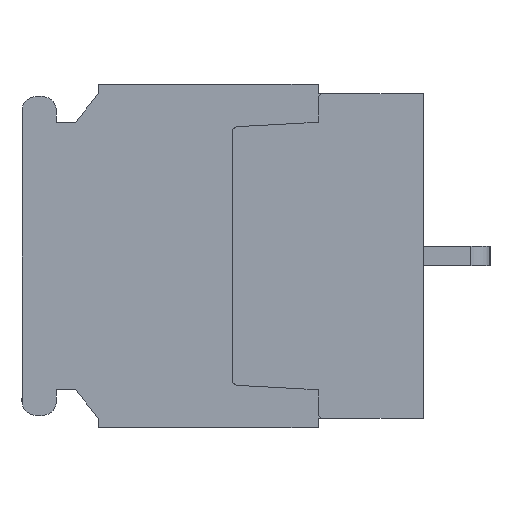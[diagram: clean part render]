
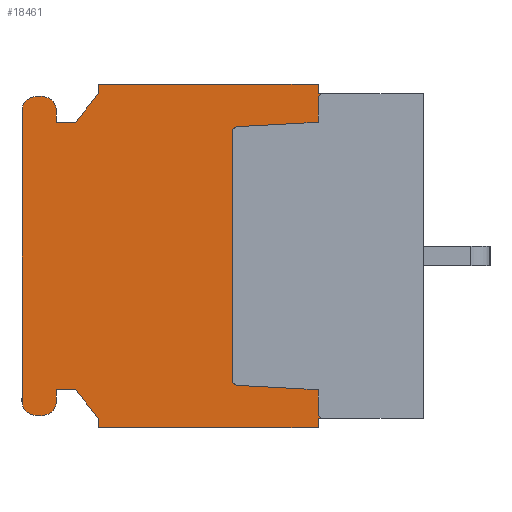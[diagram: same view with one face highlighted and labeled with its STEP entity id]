
A CAD part, left-side view. The second image highlights one B-rep face of the part: STEP entity #18461.
In plain terms, the highlighted planar face has unit normal (-1, 0, 0).
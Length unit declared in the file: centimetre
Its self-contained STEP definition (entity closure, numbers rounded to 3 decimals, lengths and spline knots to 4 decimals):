
#2247=VECTOR('',#22776,1.);
#2250=VECTOR('',#22781,1.);
#2254=VECTOR('',#22790,1.);
#2256=VECTOR('',#22793,1.);
#2259=VECTOR('',#22801,1.);
#2262=VECTOR('',#22809,1.);
#2264=VECTOR('',#22812,1.);
#2281=VECTOR('',#22839,1.);
#2283=VECTOR('',#22842,1.);
#2285=VECTOR('',#22845,1.);
#2286=VECTOR('',#22847,1.);
#2288=VECTOR('',#22850,1.);
#2290=VECTOR('',#22853,1.);
#2292=VECTOR('',#22856,1.);
#2294=VECTOR('',#22859,1.);
#2296=VECTOR('',#22862,1.);
#2299=VECTOR('',#22870,1.);
#2302=VECTOR('',#22878,1.);
#2305=VECTOR('',#22886,1.);
#2308=VECTOR('',#22894,1.);
#2310=VECTOR('',#22897,1.);
#2312=VECTOR('',#22900,1.);
#4189=LINE('',#28588,#2247);
#4192=LINE('',#28594,#2250);
#4196=LINE('',#28604,#2254);
#4198=LINE('',#28608,#2256);
#4201=LINE('',#28616,#2259);
#4204=LINE('',#28624,#2262);
#4206=LINE('',#28628,#2264);
#4223=LINE('',#28670,#2281);
#4225=LINE('',#28674,#2283);
#4227=LINE('',#28678,#2285);
#4228=LINE('',#28680,#2286);
#4230=LINE('',#28684,#2288);
#4232=LINE('',#28688,#2290);
#4234=LINE('',#28692,#2292);
#4236=LINE('',#28696,#2294);
#4238=LINE('',#28700,#2296);
#4241=LINE('',#28708,#2299);
#4244=LINE('',#28716,#2302);
#4247=LINE('',#28724,#2305);
#4250=LINE('',#28732,#2308);
#4252=LINE('',#28736,#2310);
#4254=LINE('',#28740,#2312);
#6088=VERTEX_POINT('',#28578);
#6089=VERTEX_POINT('',#28579);
#6091=VERTEX_POINT('',#28587);
#6092=VERTEX_POINT('',#28593);
#6093=VERTEX_POINT('',#28595);
#6095=VERTEX_POINT('',#28601);
#6096=VERTEX_POINT('',#28605);
#6097=VERTEX_POINT('',#28609);
#6098=VERTEX_POINT('',#28613);
#6099=VERTEX_POINT('',#28617);
#6100=VERTEX_POINT('',#28621);
#6101=VERTEX_POINT('',#28625);
#6120=VERTEX_POINT('',#28669);
#6121=VERTEX_POINT('',#28671);
#6122=VERTEX_POINT('',#28675);
#6123=VERTEX_POINT('',#28681);
#6124=VERTEX_POINT('',#28685);
#6125=VERTEX_POINT('',#28689);
#6126=VERTEX_POINT('',#28693);
#6127=VERTEX_POINT('',#28697);
#6128=VERTEX_POINT('',#28701);
#6129=VERTEX_POINT('',#28705);
#6130=VERTEX_POINT('',#28709);
#6131=VERTEX_POINT('',#28713);
#6132=VERTEX_POINT('',#28717);
#6133=VERTEX_POINT('',#28721);
#6134=VERTEX_POINT('',#28725);
#6135=VERTEX_POINT('',#28729);
#6136=VERTEX_POINT('',#28733);
#6137=VERTEX_POINT('',#28737);
#6878=CIRCLE('',#31478,0.03);
#6879=CIRCLE('',#31483,0.03);
#6880=CIRCLE('',#31487,0.03);
#6881=CIRCLE('',#31490,0.03);
#6886=CIRCLE('',#31508,0.075);
#6887=CIRCLE('',#31511,0.075);
#6888=CIRCLE('',#31514,0.075);
#6889=CIRCLE('',#31517,0.075);
#9092=EDGE_CURVE('',#6088,#6089,#6878,.T.);
#9098=EDGE_CURVE('',#6088,#6091,#4189,.T.);
#9101=EDGE_CURVE('',#6093,#6092,#4192,.T.);
#9104=EDGE_CURVE('',#6095,#6092,#6879,.T.);
#9106=EDGE_CURVE('',#6096,#6095,#4196,.T.);
#9108=EDGE_CURVE('',#6097,#6096,#4198,.T.);
#9110=EDGE_CURVE('',#6098,#6097,#6880,.T.);
#9112=EDGE_CURVE('',#6099,#6098,#4201,.T.);
#9114=EDGE_CURVE('',#6100,#6099,#6881,.T.);
#9116=EDGE_CURVE('',#6101,#6100,#4204,.T.);
#9118=EDGE_CURVE('',#6089,#6101,#4206,.T.);
#9139=EDGE_CURVE('',#6121,#6120,#4223,.T.);
#9141=EDGE_CURVE('',#6122,#6121,#4225,.T.);
#9143=EDGE_CURVE('',#6091,#6122,#4227,.T.);
#9144=EDGE_CURVE('',#6123,#6093,#4228,.T.);
#9146=EDGE_CURVE('',#6124,#6123,#4230,.T.);
#9148=EDGE_CURVE('',#6125,#6124,#4232,.T.);
#9150=EDGE_CURVE('',#6126,#6125,#4234,.T.);
#9152=EDGE_CURVE('',#6127,#6126,#4236,.T.);
#9154=EDGE_CURVE('',#6128,#6127,#4238,.T.);
#9156=EDGE_CURVE('',#6128,#6129,#6886,.T.);
#9158=EDGE_CURVE('',#6130,#6129,#4241,.T.);
#9160=EDGE_CURVE('',#6130,#6131,#6887,.T.);
#9162=EDGE_CURVE('',#6132,#6131,#4244,.T.);
#9164=EDGE_CURVE('',#6132,#6133,#6888,.T.);
#9166=EDGE_CURVE('',#6134,#6133,#4247,.T.);
#9168=EDGE_CURVE('',#6134,#6135,#6889,.T.);
#9170=EDGE_CURVE('',#6136,#6135,#4250,.T.);
#9172=EDGE_CURVE('',#6137,#6136,#4252,.T.);
#9174=EDGE_CURVE('',#6120,#6137,#4254,.T.);
#14174=ORIENTED_EDGE('',*,*,#9104,.F.);
#14175=ORIENTED_EDGE('',*,*,#9106,.F.);
#14176=ORIENTED_EDGE('',*,*,#9108,.F.);
#14177=ORIENTED_EDGE('',*,*,#9110,.F.);
#14178=ORIENTED_EDGE('',*,*,#9112,.F.);
#14179=ORIENTED_EDGE('',*,*,#9114,.F.);
#14180=ORIENTED_EDGE('',*,*,#9116,.F.);
#14181=ORIENTED_EDGE('',*,*,#9118,.F.);
#14182=ORIENTED_EDGE('',*,*,#9092,.F.);
#14183=ORIENTED_EDGE('',*,*,#9098,.T.);
#14184=ORIENTED_EDGE('',*,*,#9143,.T.);
#14185=ORIENTED_EDGE('',*,*,#9141,.T.);
#14186=ORIENTED_EDGE('',*,*,#9139,.T.);
#14187=ORIENTED_EDGE('',*,*,#9174,.T.);
#14188=ORIENTED_EDGE('',*,*,#9172,.T.);
#14189=ORIENTED_EDGE('',*,*,#9170,.T.);
#14190=ORIENTED_EDGE('',*,*,#9168,.F.);
#14191=ORIENTED_EDGE('',*,*,#9166,.T.);
#14192=ORIENTED_EDGE('',*,*,#9164,.F.);
#14193=ORIENTED_EDGE('',*,*,#9162,.T.);
#14194=ORIENTED_EDGE('',*,*,#9160,.F.);
#14195=ORIENTED_EDGE('',*,*,#9158,.T.);
#14196=ORIENTED_EDGE('',*,*,#9156,.F.);
#14197=ORIENTED_EDGE('',*,*,#9154,.T.);
#14198=ORIENTED_EDGE('',*,*,#9152,.T.);
#14199=ORIENTED_EDGE('',*,*,#9150,.T.);
#14200=ORIENTED_EDGE('',*,*,#9148,.T.);
#14201=ORIENTED_EDGE('',*,*,#9146,.T.);
#14202=ORIENTED_EDGE('',*,*,#9144,.T.);
#14203=ORIENTED_EDGE('',*,*,#9101,.T.);
#16173=EDGE_LOOP('',(#14174,#14175,#14176,#14177,#14178,#14179,#14180,#14181,
#14182,#14183,#14184,#14185,#14186,#14187,#14188,#14189,#14190,#14191,#14192,
#14193,#14194,#14195,#14196,#14197,#14198,#14199,#14200,#14201,#14202,#14203));
#17359=FACE_BOUND('',#16173,.T.);
#18461=ADVANCED_FACE('',(#17359),#19264,.F.);
#19264=PLANE('',#31521);
#22768=DIRECTION('',(-1.,0.,0.));
#22769=DIRECTION('',(0.,0.,-0.03));
#22776=DIRECTION('',(0.,1.,0.));
#22781=DIRECTION('',(0.,-1.,0.));
#22786=DIRECTION('',(-1.,0.,0.));
#22787=DIRECTION('',(0.,0.,-0.03));
#22790=DIRECTION('',(0.,0.,-1.));
#22793=DIRECTION('',(0.,-0.999,-0.054));
#22797=DIRECTION('',(-1.,0.,0.));
#22798=DIRECTION('',(0.,0.,-0.03));
#22801=DIRECTION('',(0.,0.,-1.));
#22805=DIRECTION('',(-1.,0.,0.));
#22806=DIRECTION('',(0.,0.,-0.03));
#22809=DIRECTION('',(0.,0.999,-0.054));
#22812=DIRECTION('',(0.,0.,-1.));
#22839=DIRECTION('',(0.,0.,-1.));
#22842=DIRECTION('',(0.,1.,0.));
#22845=DIRECTION('',(0.,0.,1.));
#22847=DIRECTION('',(0.,0.,1.));
#22850=DIRECTION('',(0.,-1.,0.));
#22853=DIRECTION('',(0.,0.,-1.));
#22856=DIRECTION('',(0.,-0.625,-0.781));
#22859=DIRECTION('',(0.,-1.,0.));
#22862=DIRECTION('',(0.,0.,1.));
#22866=DIRECTION('',(1.,0.,0.));
#22867=DIRECTION('',(0.,0.,-0.075));
#22870=DIRECTION('',(0.,-1.,0.));
#22874=DIRECTION('',(1.,0.,0.));
#22875=DIRECTION('',(0.,0.,-0.075));
#22878=DIRECTION('',(0.,0.,-1.));
#22882=DIRECTION('',(1.,0.,0.));
#22883=DIRECTION('',(0.,0.,-0.075));
#22886=DIRECTION('',(0.,1.,0.));
#22890=DIRECTION('',(1.,0.,0.));
#22891=DIRECTION('',(0.,0.,-0.075));
#22894=DIRECTION('',(0.,0.,1.));
#22897=DIRECTION('',(0.,1.,0.));
#22900=DIRECTION('',(0.,0.625,-0.781));
#22901=DIRECTION('',(1.,0.,0.));
#28577=CARTESIAN_POINT('',(-1.3,0.52,0.82));
#28578=CARTESIAN_POINT('',(-1.3,0.52,0.85));
#28579=CARTESIAN_POINT('',(-1.3,0.55,0.82));
#28587=CARTESIAN_POINT('',(-1.3,0.55,0.85));
#28588=CARTESIAN_POINT('',(-1.3,0.,0.85));
#28593=CARTESIAN_POINT('',(-1.3,0.52,-0.85));
#28594=CARTESIAN_POINT('',(-1.3,0.55,-0.85));
#28595=CARTESIAN_POINT('',(-1.3,0.55,-0.85));
#28600=CARTESIAN_POINT('',(-1.3,0.52,-0.82));
#28601=CARTESIAN_POINT('',(-1.3,0.55,-0.82));
#28604=CARTESIAN_POINT('',(-1.3,0.55,-0.82));
#28605=CARTESIAN_POINT('',(-1.3,0.55,-0.7));
#28608=CARTESIAN_POINT('',(-1.3,0.55,-0.7));
#28609=CARTESIAN_POINT('',(-1.3,0.9718,-0.6773));
#28612=CARTESIAN_POINT('',(-1.3,0.97,-0.6473));
#28613=CARTESIAN_POINT('',(-1.3,1.,-0.6473));
#28616=CARTESIAN_POINT('',(-1.3,1.,-0.6473));
#28617=CARTESIAN_POINT('',(-1.3,1.,0.6473));
#28620=CARTESIAN_POINT('',(-1.3,0.97,0.6473));
#28621=CARTESIAN_POINT('',(-1.3,0.9718,0.6773));
#28624=CARTESIAN_POINT('',(-1.3,0.9718,0.6773));
#28625=CARTESIAN_POINT('',(-1.3,0.55,0.7));
#28628=CARTESIAN_POINT('',(-1.3,0.55,0.7));
#28669=CARTESIAN_POINT('',(-1.3,1.7,0.85));
#28670=CARTESIAN_POINT('',(-1.3,1.7,0.9));
#28671=CARTESIAN_POINT('',(-1.3,1.7,0.9));
#28674=CARTESIAN_POINT('',(-1.3,0.55,0.9));
#28675=CARTESIAN_POINT('',(-1.3,0.55,0.9));
#28678=CARTESIAN_POINT('',(-1.3,0.55,0.85));
#28680=CARTESIAN_POINT('',(-1.3,0.55,-0.9));
#28681=CARTESIAN_POINT('',(-1.3,0.55,-0.9));
#28684=CARTESIAN_POINT('',(-1.3,1.7,-0.9));
#28685=CARTESIAN_POINT('',(-1.3,1.7,-0.9));
#28688=CARTESIAN_POINT('',(-1.3,1.7,-0.85));
#28689=CARTESIAN_POINT('',(-1.3,1.7,-0.85));
#28692=CARTESIAN_POINT('',(-1.3,1.82,-0.7));
#28693=CARTESIAN_POINT('',(-1.3,1.82,-0.7));
#28696=CARTESIAN_POINT('',(-1.3,1.92,-0.7));
#28697=CARTESIAN_POINT('',(-1.3,1.92,-0.7));
#28700=CARTESIAN_POINT('',(-1.3,1.92,-0.76));
#28701=CARTESIAN_POINT('',(-1.3,1.92,-0.76));
#28704=CARTESIAN_POINT('',(-1.3,1.995,-0.76));
#28705=CARTESIAN_POINT('',(-1.3,1.995,-0.835));
#28708=CARTESIAN_POINT('',(-1.3,2.025,-0.835));
#28709=CARTESIAN_POINT('',(-1.3,2.025,-0.835));
#28712=CARTESIAN_POINT('',(-1.3,2.025,-0.76));
#28713=CARTESIAN_POINT('',(-1.3,2.1,-0.76));
#28716=CARTESIAN_POINT('',(-1.3,2.1,0.76));
#28717=CARTESIAN_POINT('',(-1.3,2.1,0.76));
#28720=CARTESIAN_POINT('',(-1.3,2.025,0.76));
#28721=CARTESIAN_POINT('',(-1.3,2.025,0.835));
#28724=CARTESIAN_POINT('',(-1.3,1.995,0.835));
#28725=CARTESIAN_POINT('',(-1.3,1.995,0.835));
#28728=CARTESIAN_POINT('',(-1.3,1.995,0.76));
#28729=CARTESIAN_POINT('',(-1.3,1.92,0.76));
#28732=CARTESIAN_POINT('',(-1.3,1.92,0.7));
#28733=CARTESIAN_POINT('',(-1.3,1.92,0.7));
#28736=CARTESIAN_POINT('',(-1.3,1.82,0.7));
#28737=CARTESIAN_POINT('',(-1.3,1.82,0.7));
#28740=CARTESIAN_POINT('',(-1.3,1.7,0.85));
#28741=CARTESIAN_POINT('',(-1.3,1.0745,0.));
#31478=AXIS2_PLACEMENT_3D('',#28577,#22768,#22769);
#31483=AXIS2_PLACEMENT_3D('',#28600,#22786,#22787);
#31487=AXIS2_PLACEMENT_3D('',#28612,#22797,#22798);
#31490=AXIS2_PLACEMENT_3D('',#28620,#22805,#22806);
#31508=AXIS2_PLACEMENT_3D('',#28704,#22866,#22867);
#31511=AXIS2_PLACEMENT_3D('',#28712,#22874,#22875);
#31514=AXIS2_PLACEMENT_3D('',#28720,#22882,#22883);
#31517=AXIS2_PLACEMENT_3D('',#28728,#22890,#22891);
#31521=AXIS2_PLACEMENT_3D('',#28741,#22901,$);
